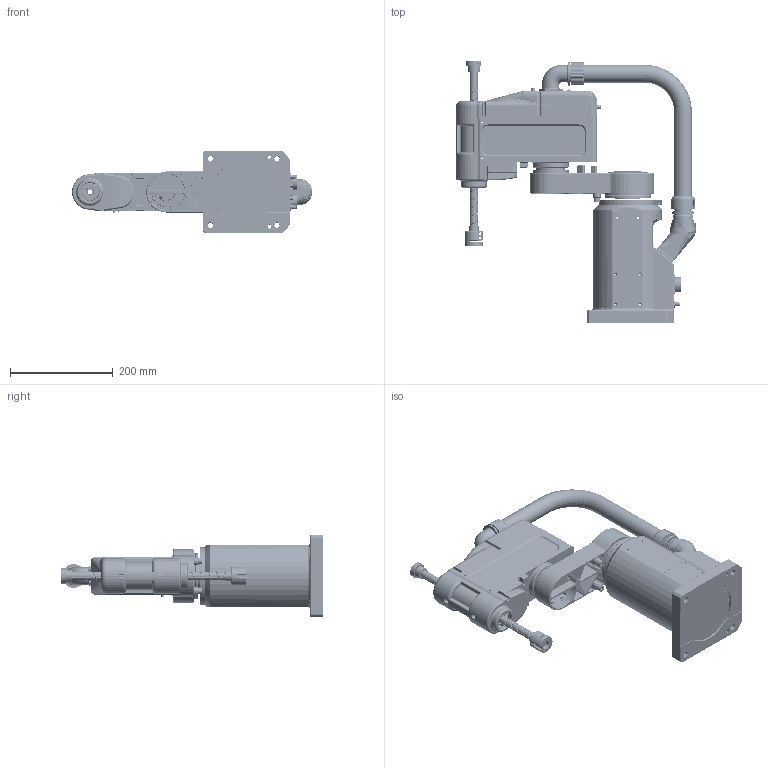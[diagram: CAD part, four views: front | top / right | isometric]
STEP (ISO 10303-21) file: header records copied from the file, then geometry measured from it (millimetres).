
FILE_DESCRIPTION (( 'STEP AP214' ), '1' );
FILE_NAME ('R4-0203-00.STEP', '2023-01-04T06:35:28', ( 'iCura' ), ( 'ICOS' ), 'SwSTEP 2.0', 'SolidWorks 2018', '' );
FILE_SCHEMA (( 'AUTOMOTIVE_DESIGN' ));
Length unit declared in the file: millimetre
Products named in the file (7): R4-0203-2-00; R4-0203-4-00 ; R4-0203-1-00; R4-0203-00; TMY  90度旋转软管接头（AD34.5); 疏恇奪 R4-0203; R4-0203-3-00 J3粣
Assembly tree (6 placements, depth 2):
  R4-0203-00
    R4-0203-1-00
    R4-0203-2-00
    R4-0203-3-00 J3粣
    R4-0203-4-00 
    疏恇奪 R4-0203
    TMY  90度旋转软管接头（AD34.5)
Bounding box: 467.51 x 510.73 x 160 mm (x, y, z)
Volume: 161449.3 mm3; surface area: 763418 mm2
Topology: 2 solids, 166 shells, 2375 faces, 7803 edges, 5479 vertices
Faces by surface type: cylinder 1072, plane 781, bspline 174, torus 162, cone 161, sphere 25
Full cylindrical faces by diameter (mm): 1 x18, 2.459 x1, 2.5 x33, 3.2 x9, 3.3 x18, 3.4 x39, 3.5 x44, 4 x6, 4.2 x6, 4.5 x28, 5 x7, 5.1 x1, 5.4 x1, 5.5 x10, 5.891 x2, 6 x13, 6.5 x1, 7 x13, 8 x23, 8.9 x1, 9 x1, 10 x5, 10.5 x1, 11 x2, 12 x1, 13 x2, 14 x1, 15 x2, 16 x1, 20 x1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
Entity records: 132476 total; most frequent: CARTESIAN_POINT 44927, DIRECTION 13044, ORIENTED_EDGE 11581, EDGE_CURVE 7001, VERTEX_POINT 5262, AXIS2_PLACEMENT_3D 5017, EDGE_LOOP 3442, LINE 3010
